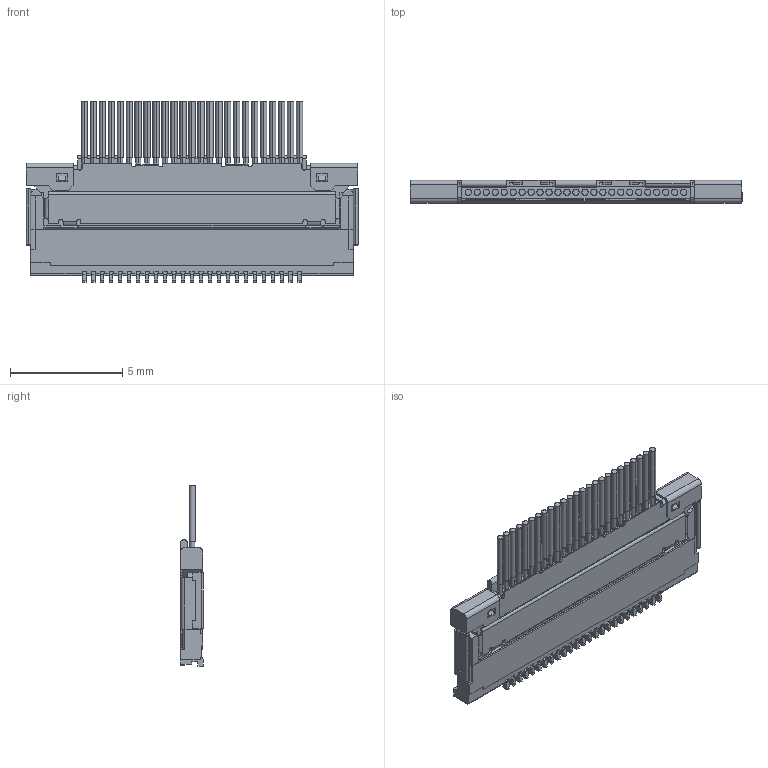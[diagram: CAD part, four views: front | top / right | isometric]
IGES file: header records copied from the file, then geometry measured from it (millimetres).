
Start section: SolidWorks IGES file using analytic representation for surfaces
Global section: file name: C:\Documents and Settings\kaihatsu-3dcad-4\デスクトップ\120307 CAB V IGES 作成\25P\IGES\20345-025Txx2+20347-025Exx2C MATING IGES R10R7 ALL.IGS; native system: SolidWorks 2011; preprocessor: SolidWorks 2011; author: kaihatsu-3dcad-4; date: 120308.094536; units: millimetre
Bounding box: 14.8 x 1.02 x 8.05 mm (x, y, z)
Surface area: 310.1 mm2 (no closed solid volume)
Topology: 0 solids, 0 shells, 1727 faces, 11710 edges, 11661 vertices
Faces by surface type: bspline 1394, revolution 333
